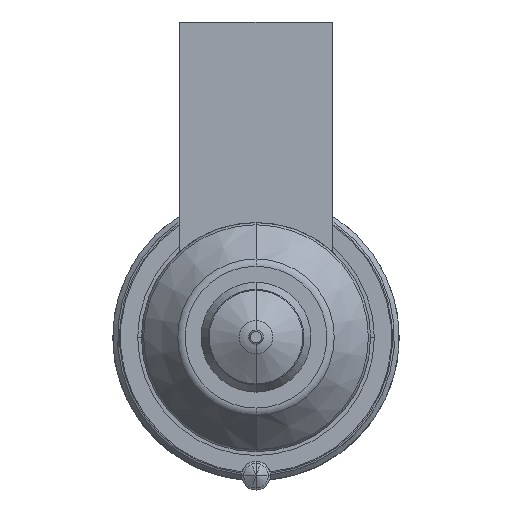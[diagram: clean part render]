
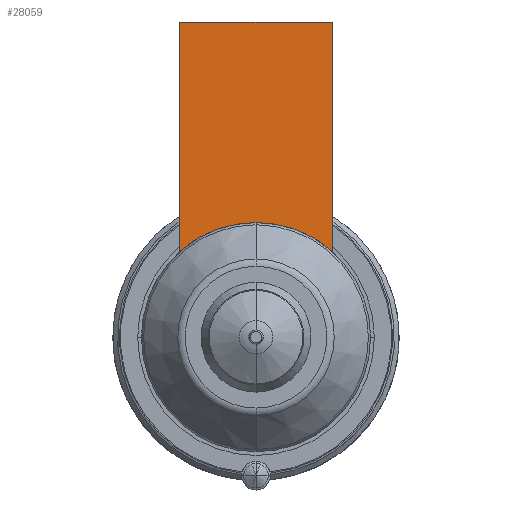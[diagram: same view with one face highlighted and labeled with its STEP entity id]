
A CAD part, front view. The second image highlights one B-rep face of the part: STEP entity #28059.
In plain terms, the highlighted planar face has unit normal (0, -1, 0).
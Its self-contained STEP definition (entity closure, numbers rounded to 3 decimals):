
#27149=DIRECTION('',(0.,0.,-1.));
#27150=VECTOR('',#27149,24.056);
#27151=CARTESIAN_POINT('',(-8.,-56.,33.));
#27152=LINE('',#27151,#27150);
#27189=DIRECTION('',(1.,0.,0.));
#27190=VECTOR('',#27189,16.);
#27191=CARTESIAN_POINT('',(-8.,-56.,33.));
#27192=LINE('',#27191,#27190);
#27196=CARTESIAN_POINT('',(0.,-56.,0.));
#27197=DIRECTION('',(0.,-1.,0.));
#27198=DIRECTION('',(0.667,0.,0.745));
#27199=AXIS2_PLACEMENT_3D('',#27196,#27197,#27198);
#27204=CARTESIAN_POINT('',(0.,-56.,0.));
#27205=DIRECTION('',(0.,-1.,0.));
#27206=DIRECTION('',(0.,0.,1.));
#27207=AXIS2_PLACEMENT_3D('',#27204,#27205,#27206);
#27240=DIRECTION('',(0.,0.,-1.));
#27241=VECTOR('',#27240,24.056);
#27242=CARTESIAN_POINT('',(8.,-56.,33.));
#27243=LINE('',#27242,#27241);
#27895=CARTESIAN_POINT('',(-8.,-56.,33.));
#27896=VERTEX_POINT('',#27895);
#27901=CARTESIAN_POINT('',(8.,-56.,33.));
#27902=VERTEX_POINT('',#27901);
#27905=CARTESIAN_POINT('',(-8.,-56.,8.944));
#27906=VERTEX_POINT('',#27905);
#27909=CARTESIAN_POINT('',(8.,-56.,8.944));
#27910=VERTEX_POINT('',#27909);
#27978=CARTESIAN_POINT('',(0.,-56.,12.));
#27979=VERTEX_POINT('',#27978);
#28044=CARTESIAN_POINT('',(-8.,-56.,33.));
#28045=DIRECTION('',(0.,-1.,0.));
#28046=DIRECTION('',(0.,0.,-1.));
#28047=AXIS2_PLACEMENT_3D('',#28044,#28045,#28046);
#28048=PLANE('',#28047);
#28049=ORIENTED_EDGE('',*,*,#27992,.F.);
#28051=ORIENTED_EDGE('',*,*,#28050,.T.);
#28053=ORIENTED_EDGE('',*,*,#28052,.T.);
#28055=ORIENTED_EDGE('',*,*,#28054,.T.);
#28056=ORIENTED_EDGE('',*,*,#28024,.T.);
#28057=EDGE_LOOP('',(#28049,#28051,#28053,#28055,#28056));
#28058=FACE_OUTER_BOUND('',#28057,.F.);
#28059=ADVANCED_FACE('',(#28058),#28048,.T.);
#27200=CIRCLE('',#27199,12.);
#27208=CIRCLE('',#27207,12.);
#27992=EDGE_CURVE('',#27896,#27906,#27152,.T.);
#28024=EDGE_CURVE('',#27979,#27906,#27208,.T.);
#28050=EDGE_CURVE('',#27896,#27902,#27192,.T.);
#28052=EDGE_CURVE('',#27902,#27910,#27243,.T.);
#28054=EDGE_CURVE('',#27910,#27979,#27200,.T.);
